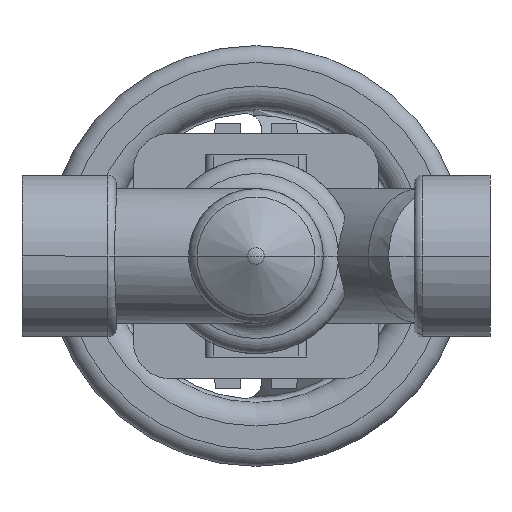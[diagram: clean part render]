
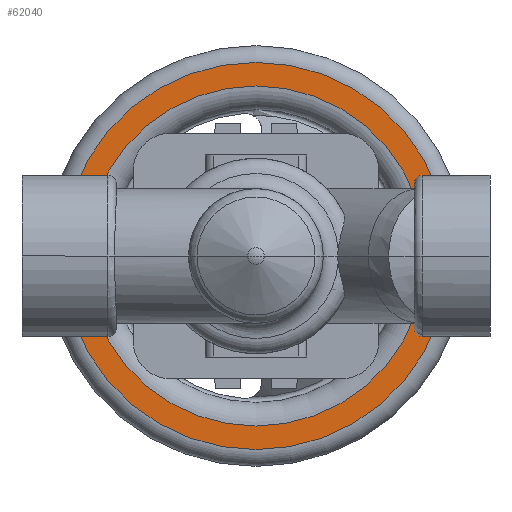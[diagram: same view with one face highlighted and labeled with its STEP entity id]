
A CAD part, front view. The second image highlights one B-rep face of the part: STEP entity #62040.
In plain terms, the highlighted planar face has unit normal (0, -1, 0).
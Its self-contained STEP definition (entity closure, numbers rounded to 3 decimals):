
#61480=CARTESIAN_POINT('',(127.,212.3,0.));
#61490=VERTEX_POINT('',#61480);
#61520=CARTESIAN_POINT('',(69.5,212.3,0.));
#61530=DIRECTION('',(0.,1.,0.));
#61540=DIRECTION('',(-1.,0.,0.));
#61550=AXIS2_PLACEMENT_3D('',#61520,#61530,#61540);
#61560=CIRCLE('',#61550,57.5);
#61570=CARTESIAN_POINT('',(12.,212.3,0.));
#61580=VERTEX_POINT('',#61570);
#61590=EDGE_CURVE('',#61580,#61490,#61560,.T.);
#61790=CARTESIAN_POINT('',(15.5,212.3,0.));
#61800=DIRECTION('',(0.,-1.,0.));
#61810=DIRECTION('',(1.,0.,0.));
#61820=AXIS2_PLACEMENT_3D('',#61790,#61800,#61810);
#61830=PLANE('',#61820);
#61840=ORIENTED_EDGE('',*,*,#61590,.F.);
#61850=EDGE_CURVE('',#61490,#61580,#61560,.T.);
#61860=ORIENTED_EDGE('',*,*,#61850,.F.);
#61870=EDGE_LOOP('',(#61860,#61840));
#61880=FACE_OUTER_BOUND('',#61870,.T.);
#61890=CARTESIAN_POINT('',(69.5,212.3,0.));
#61900=DIRECTION('',(0.,1.,0.));
#61910=DIRECTION('',(-1.,0.,0.));
#61920=AXIS2_PLACEMENT_3D('',#61890,#61900,#61910);
#61930=CIRCLE('',#61920,50.5);
#61940=CARTESIAN_POINT('',(19.,212.3,0.));
#61950=VERTEX_POINT('',#61940);
#61960=CARTESIAN_POINT('',(120.,212.3,0.));
#61970=VERTEX_POINT('',#61960);
#61980=EDGE_CURVE('',#61950,#61970,#61930,.T.);
#61990=ORIENTED_EDGE('',*,*,#61980,.T.);
#62000=EDGE_CURVE('',#61970,#61950,#61930,.T.);
#62010=ORIENTED_EDGE('',*,*,#62000,.T.);
#62020=EDGE_LOOP('',(#62010,#61990));
#62030=FACE_BOUND('',#62020,.T.);
#62040=ADVANCED_FACE('',(#61880,#62030),#61830,.T.);
